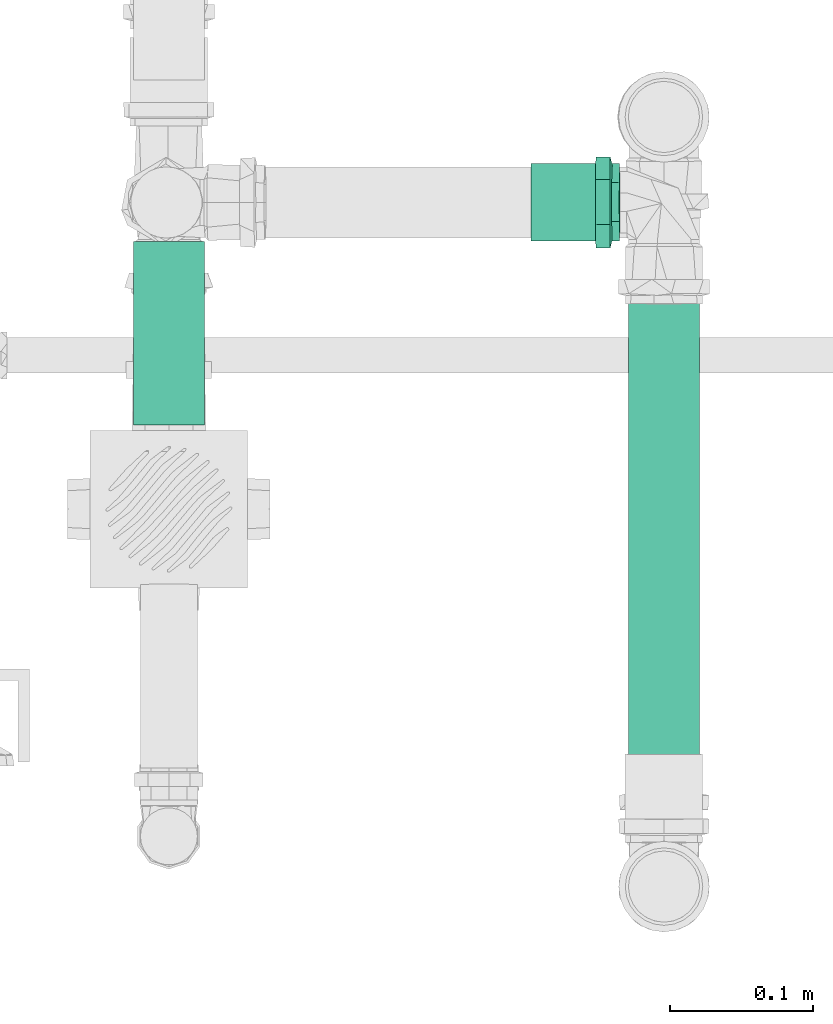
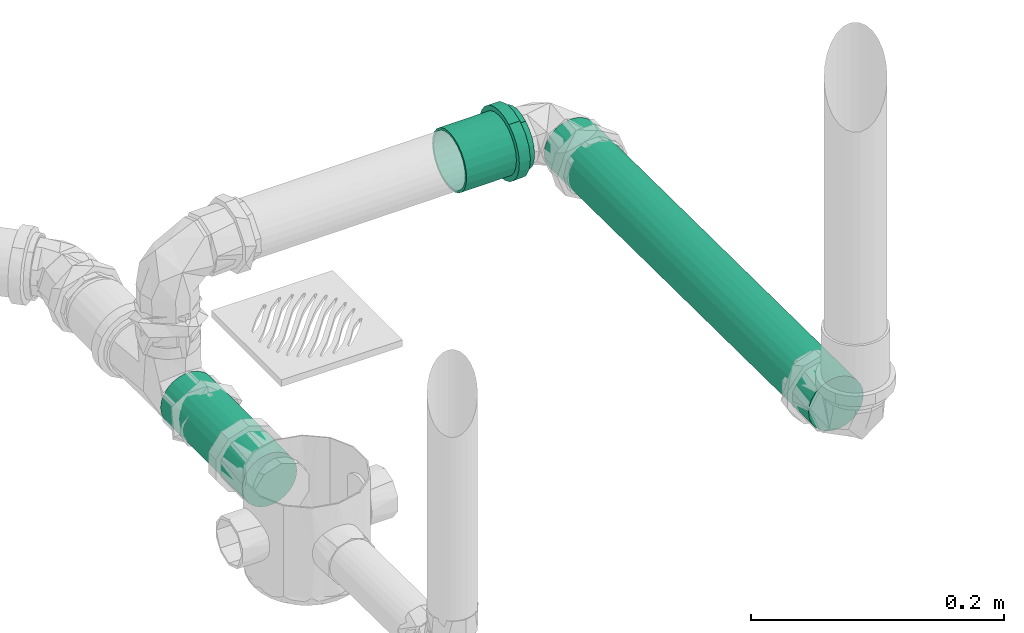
# One storey, part 225 of 589: 2 flow segments, 1 flow fitting.
"""IFC2X3 building model written with IfcOpenShell, lengths in millimetres."""

from ifc_helpers import new_model, entity, si_unit, converted_unit, derived_unit, direction, frame, frame_2d, origin, place, context, subcontext, project, spatial, circle, extrude, faceted_brep, source, transform, mapped, material, type_object, type_shapes, element, save


model = new_model("IFC2X3")

# Units and contexts
model_context = context("Model", 3, precision=0.01, world=origin(), true_north=direction((6.123031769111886e-17, 1.0)))
body_context = subcontext(model_context, "Body", "Model", "MODEL_VIEW")
ifc_project = project(units=[si_unit("LENGTHUNIT", "METRE", prefix="MILLI"), si_unit("AREAUNIT", "SQUARE_METRE"), si_unit("VOLUMEUNIT", "CUBIC_METRE"), converted_unit("PLANEANGLEUNIT", "DEGREE", entity("IfcRatioMeasure", 0.017453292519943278), si_unit("PLANEANGLEUNIT", "RADIAN"), dimensions=[0, 0, 0, 0, 0, 0, 0]), si_unit("MASSUNIT", "GRAM", prefix="KILO"), derived_unit("MASSDENSITYUNIT", [(si_unit("MASSUNIT", "GRAM", prefix="KILO"), 1), (si_unit("LENGTHUNIT", "METRE"), -3)]), derived_unit("IONCONCENTRATIONUNIT", [(si_unit("MASSUNIT", "GRAM", prefix="KILO"), 1), (si_unit("LENGTHUNIT", "METRE"), -3)]), derived_unit("MOMENTOFINERTIAUNIT", [(si_unit("LENGTHUNIT", "METRE"), 4)]), si_unit("TIMEUNIT", "SECOND"), si_unit("FREQUENCYUNIT", "HERTZ"), si_unit("THERMODYNAMICTEMPERATUREUNIT", "DEGREE_CELSIUS"), derived_unit("THERMALTRANSMITTANCEUNIT", [(si_unit("MASSUNIT", "GRAM", prefix="KILO"), 1), (si_unit("THERMODYNAMICTEMPERATUREUNIT", "KELVIN"), -1), (si_unit("TIMEUNIT", "SECOND"), -3)]), derived_unit("THERMALCONDUCTANCEUNIT", [(si_unit("MASSUNIT", "GRAM", prefix="KILO"), 1), (si_unit("THERMODYNAMICTEMPERATUREUNIT", "KELVIN"), -1), (si_unit("TIMEUNIT", "SECOND"), -3), (si_unit("LENGTHUNIT", "METRE"), 1)]), derived_unit("VOLUMETRICFLOWRATEUNIT", [(si_unit("LENGTHUNIT", "METRE"), 3), (si_unit("TIMEUNIT", "SECOND"), -1)]), derived_unit("MASSFLOWRATEUNIT", [(si_unit("MASSUNIT", "GRAM", prefix="KILO"), 1), (si_unit("TIMEUNIT", "SECOND"), -1)]), derived_unit("ROTATIONALFREQUENCYUNIT", [(si_unit("TIMEUNIT", "SECOND"), -1)]), si_unit("ELECTRICCURRENTUNIT", "AMPERE"), si_unit("ELECTRICVOLTAGEUNIT", "VOLT"), si_unit("POWERUNIT", "WATT"), si_unit("FORCEUNIT", "NEWTON", prefix="KILO"), si_unit("ILLUMINANCEUNIT", "LUX"), si_unit("LUMINOUSFLUXUNIT", "LUMEN"), si_unit("LUMINOUSINTENSITYUNIT", "CANDELA"), derived_unit("USERDEFINED", [(si_unit("MASSUNIT", "GRAM", prefix="KILO"), -1), (si_unit("LENGTHUNIT", "METRE"), -2), (si_unit("TIMEUNIT", "SECOND"), 3), (si_unit("LUMINOUSFLUXUNIT", "LUMEN"), 1)]), derived_unit("USERDEFINED", [(si_unit("MASSUNIT", "GRAM", prefix="KILO"), 1), (si_unit("TIMEUNIT", "SECOND"), -3), (si_unit("LENGTHUNIT", "METRE"), 3), (si_unit("ELECTRICCURRENTUNIT", "AMPERE"), -2)]), derived_unit("SOUNDPOWERUNIT", [(si_unit("MASSUNIT", "GRAM", prefix="KILO"), 1), (si_unit("TIMEUNIT", "SECOND"), -3), (si_unit("LENGTHUNIT", "METRE"), 2)]), derived_unit("SOUNDPRESSUREUNIT", [(si_unit("MASSUNIT", "GRAM", prefix="KILO"), 1), (si_unit("LENGTHUNIT", "METRE"), -1), (si_unit("TIMEUNIT", "SECOND"), -2)]), derived_unit("LINEARVELOCITYUNIT", [(si_unit("LENGTHUNIT", "METRE"), 1), (si_unit("TIMEUNIT", "SECOND"), -1)]), si_unit("PRESSUREUNIT", "PASCAL"), derived_unit("USERDEFINED", [(si_unit("MASSUNIT", "GRAM", prefix="KILO"), 1), (si_unit("LENGTHUNIT", "METRE"), -2), (si_unit("TIMEUNIT", "SECOND"), -2)]), derived_unit("LINEARFORCEUNIT", [(si_unit("MASSUNIT", "GRAM", prefix="KILO"), 1), (si_unit("TIMEUNIT", "SECOND"), -2)]), derived_unit("PLANARFORCEUNIT", [(si_unit("MASSUNIT", "GRAM", prefix="KILO"), 1), (si_unit("LENGTHUNIT", "METRE"), -1), (si_unit("TIMEUNIT", "SECOND"), -2)]), derived_unit("SPECIFICHEATCAPACITYUNIT", [(si_unit("THERMODYNAMICTEMPERATUREUNIT", "KELVIN"), -1), (si_unit("LENGTHUNIT", "METRE"), 2), (si_unit("TIMEUNIT", "SECOND"), -2)]), derived_unit("HEATINGVALUEUNIT", [(si_unit("LENGTHUNIT", "METRE"), 2), (si_unit("TIMEUNIT", "SECOND"), -2)]), derived_unit("VAPORPERMEABILITYUNIT", [(si_unit("LENGTHUNIT", "METRE"), -1), (si_unit("TIMEUNIT", "SECOND"), 1)]), derived_unit("DYNAMICVISCOSITYUNIT", [(si_unit("MASSUNIT", "GRAM", prefix="KILO"), 1), (si_unit("TIMEUNIT", "SECOND"), -1), (si_unit("LENGTHUNIT", "METRE"), -1)]), derived_unit("THERMALEXPANSIONCOEFFICIENTUNIT", [(si_unit("THERMODYNAMICTEMPERATUREUNIT", "KELVIN"), -1)]), derived_unit("MODULUSOFELASTICITYUNIT", [(si_unit("MASSUNIT", "GRAM", prefix="KILO"), 1), (si_unit("LENGTHUNIT", "METRE"), -1), (si_unit("TIMEUNIT", "SECOND"), -2)]), derived_unit("ISOTHERMALMOISTURECAPACITYUNIT", [(si_unit("LENGTHUNIT", "METRE"), 3), (si_unit("MASSUNIT", "GRAM", prefix="KILO"), -1)]), derived_unit("MOISTUREDIFFUSIVITYUNIT", [(si_unit("TIMEUNIT", "SECOND"), -1), (si_unit("LENGTHUNIT", "METRE"), 2)])], contexts=[model_context])

# Site, building, storey
site_placement = place(None, origin())
site = spatial("IfcSite", under=ifc_project, at=site_placement, Name="Default", CompositionType="ELEMENT")
building_placement = place(site_placement, origin())
building = spatial("IfcBuilding", under=site, at=building_placement, CompositionType="ELEMENT")
storey_placement = place(building_placement, frame((0.0, 0.0, 100.0)))
storey = spatial("IfcBuildingStorey", under=building, at=storey_placement, Name="TÉRREO", CompositionType="ELEMENT", Elevation=100.0)

# Flow segments
pipe_segment_type = type_object("IfcPipeSegmentType", Name="Tipos de tubos:PVC Esgoto Série Normal", PredefinedType="NOTDEFINED")
flow_segment_1_placement = place(storey_placement, origin())
element("IfcFlowSegment", 1, at=flow_segment_1_placement, inside=storey, type_object=pipe_segment_type, Name="Tipos de tubos:PVC Esgoto Série Normal", ObjectType="Tipos de tubos:PVC Esgoto Série Normal", context=body_context, shape_type="SweptSolid", body=[
    extrude(circle(Radius=25.0, at=frame_2d((0.0, -1.6919798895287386e-14), x_axis=(1.0, 0.0))), frame((13403.0548188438, -1809.7079482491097, -251.41394173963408), z_axis=(0.0, 1.0, 0.0), x_axis=(1.0, 0.0, 0.0)), (0.0, 0.0, 1.0), 128.74917657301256),
])
flow_segment_2_placement = place(storey_placement, origin())
element("IfcFlowSegment", 2, at=flow_segment_2_placement, inside=storey, type_object=pipe_segment_type, Name="Tipos de tubos:PVC Esgoto Série Normal", ObjectType="Tipos de tubos:PVC Esgoto Série Normal", context=body_context, shape_type="SweptSolid", body=[
    extrude(circle(Radius=25.0, at=frame_2d((0.0, -2.5378429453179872e-14), x_axis=(1.0, 0.0))), frame((13750.430163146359, -2102.619018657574, -122.09525023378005), z_axis=(0.0, 0.9999500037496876, -0.009999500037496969), x_axis=(-1.0, 0.0, 0.0)), (0.0, 0.0, 1.0), 417.8848332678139),
])

# Flow fitting
ifc_material = material(Name="PVC Série Normal")
pipe_fitting_type = type_object("IfcPipeFittingType", Name="PVC Esgoto_Luva Simples para Conexão_Rodrigo MEP:Standard", PredefinedType="NOTDEFINED", material=ifc_material)
shared_shape = source(origin(), body_context, "Body", "Brep", [
    faceted_brep([(16.599999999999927, 15.900000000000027, -27.53960784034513), (16.599999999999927, 22.485995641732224, -22.485995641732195), (16.599999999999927, 13.599999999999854, -23.555890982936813), (16.599999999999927, 7.039878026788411, -26.273182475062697), (16.599999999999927, 8.2304456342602, -30.71644127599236), (16.599999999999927, 19.233304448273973, -19.233304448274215), (16.599999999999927, 27.539607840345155, -15.899999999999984), (16.599999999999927, 23.55589098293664, -13.600000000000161), (16.599999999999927, 26.273182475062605, -7.03987802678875), (16.599999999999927, 30.716441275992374, -8.230445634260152), (16.599999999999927, 27.2, 0.0), (16.599999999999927, 31.8, 0.0), (16.599999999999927, 26.273182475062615, 7.0398780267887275), (16.599999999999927, 30.71644127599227, 8.23044563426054), (16.599999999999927, 23.555890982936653, 13.60000000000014), (16.599999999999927, 27.539607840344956, 15.900000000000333), (16.599999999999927, 19.233304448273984, 19.2333044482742), (16.599999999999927, 22.485995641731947, 22.48599564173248), (16.599999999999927, 13.599999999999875, 23.555890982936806), (16.599999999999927, 15.899999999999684, 27.53960784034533), (16.599999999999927, 7.039878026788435, 26.27318247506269), (16.599999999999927, 8.230445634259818, 30.716441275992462), (16.599999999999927, 0.0, 27.2), (16.599999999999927, 0.0, 31.8), (16.599999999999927, -7.039878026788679, 26.273182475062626), (16.599999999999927, -8.230445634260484, 30.716441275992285), (16.599999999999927, -13.600000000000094, 23.555890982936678), (16.599999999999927, -15.900000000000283, 27.53960784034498), (16.599999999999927, -19.23330444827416, 19.233304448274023), (16.599999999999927, -22.485995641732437, 22.48599564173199), (16.599999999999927, -23.55589098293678, 13.59999999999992), (16.599999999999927, -27.539607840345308, 15.899999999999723), (16.599999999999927, -30.71644127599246, 8.230445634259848), (16.599999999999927, -26.273182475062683, 7.039878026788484), (16.599999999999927, -31.8, 0.0), (16.599999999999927, -27.2, 0.0), (16.599999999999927, -30.71644127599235, -8.23044563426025), (16.599999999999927, -26.273182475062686, -7.03987802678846), (16.599999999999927, -27.53960784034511, -15.90000000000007), (16.599999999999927, -23.55589098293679, -13.599999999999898), (16.599999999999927, -22.485995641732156, -22.485995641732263), (16.599999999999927, -19.233304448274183, -19.233304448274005), (16.599999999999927, -15.899999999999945, -27.53960784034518), (16.599999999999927, -13.600000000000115, -23.555890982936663), (16.599999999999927, -8.230445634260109, -30.716441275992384), (16.599999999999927, -7.039878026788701, -26.273182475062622), (16.599999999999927, 0.0, -31.8), (16.599999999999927, 0.0, -27.2), (6.500000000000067, -10.708108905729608, 29.429219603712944), (6.500000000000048, -24.359073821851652, 20.44200387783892), (6.500000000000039, -27.120498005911, 15.6595386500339), (6.50000000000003, -29.881922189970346, 10.877073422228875), (6.500000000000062, -15.89769721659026, 27.540937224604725), (6.500000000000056, -20.128385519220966, 23.991470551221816), (6.50000000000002, -30.840961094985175, 5.438536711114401), (6.5000000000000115, -31.8, 0.0), (6.50000000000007, -5.518520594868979, 31.317501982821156), (6.500000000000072, 5.526376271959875, 31.316116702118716), (6.50000000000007, 0.00392783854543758, 31.316809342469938), (6.500000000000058, 20.134403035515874, 23.986420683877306), (6.500000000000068, 10.715490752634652, 29.42653259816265), (6.500000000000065, 15.904605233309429, 27.536948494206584), (6.500000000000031, 29.8846497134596, 10.869577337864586), (6.500000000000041, 27.12442527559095, 15.652735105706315), (6.5000000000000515, 24.364200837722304, 20.435892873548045), (6.5000000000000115, 31.8, 0.0), (6.499999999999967, 24.364200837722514, -20.435892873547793), (6.499999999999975, 27.12442527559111, -15.652735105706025), (6.499999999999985, 29.884649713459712, -10.869577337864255), (6.4999999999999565, 15.904605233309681, -27.53694849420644), (6.499999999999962, 20.134403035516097, -23.986420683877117), (6.499999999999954, 10.715490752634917, -29.42653259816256), (6.499999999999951, 5.526376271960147, -31.31611670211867), (6.499999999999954, -5.518520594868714, -31.317501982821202), (6.499999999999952, 0.003927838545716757, -31.316809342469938), (6.499999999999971, -20.128385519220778, -23.99147055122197), (6.499999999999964, -15.897697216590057, -27.54093722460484), (6.499999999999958, -10.70810890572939, -29.42921960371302), (6.499999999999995, -29.881922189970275, -10.877073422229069), (6.499999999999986, -27.12049800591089, -15.659538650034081), (6.499999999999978, -24.359073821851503, -20.442003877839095), (6.500000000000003, -30.840961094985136, -5.438536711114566), (6.499999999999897, -30.696173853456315, -6.259599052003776), (62.0, 13.600000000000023, -23.55589098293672), (62.0, 19.233304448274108, -19.23330444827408), (62.0, 12.499999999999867, -21.650635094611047), (62.0, 6.470476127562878, -24.14814565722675), (62.0, 7.039878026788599, -26.273182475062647), (62.0, 17.677669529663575, -17.677669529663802), (62.0, 23.55589098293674, -13.599999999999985), (62.0, 21.65063509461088, -12.50000000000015), (62.0, 24.148145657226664, -6.470476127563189), (62.0, 26.27318247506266, -7.039878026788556), (62.0, 25.0, 0.0), (62.0, 27.2, 0.0), (62.0, 24.148145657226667, 6.4704761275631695), (62.0, 26.273182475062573, 7.03987802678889), (62.0, 21.650635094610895, 12.500000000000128), (62.0, 23.555890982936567, 13.600000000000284), (62.0, 17.67766952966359, 17.67766952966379), (62.0, 19.233304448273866, 19.233304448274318), (62.0, 12.499999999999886, 21.650635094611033), (62.0, 13.59999999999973, 23.55589098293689), (62.0, 6.4704761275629, 24.14814565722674), (62.0, 7.039878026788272, 26.273182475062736), (62.0, 0.0, 25.0), (62.0, 0.0, 27.2), (62.0, -6.470476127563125, 24.148145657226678), (62.0, -7.039878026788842, 26.273182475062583), (62.0, -12.500000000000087, 21.650635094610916), (62.0, -13.600000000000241, 23.555890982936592), (62.0, -17.677669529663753, 17.677669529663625), (62.0, -19.233304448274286, 19.2333044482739), (62.0, -21.65063509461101, 12.499999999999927), (62.0, -23.555890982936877, 13.599999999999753), (62.0, -26.27318247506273, 7.039878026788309), (62.0, -24.14814565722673, 6.470476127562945), (62.0, -27.2, 0.0), (62.0, -25.0, 0.0), (62.0, -26.27318247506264, -7.0398780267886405), (62.0, -24.148145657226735, -6.470476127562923), (62.0, -23.5558909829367, -13.600000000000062), (62.0, -21.650635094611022, -12.499999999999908), (62.0, -19.233304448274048, -19.233304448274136), (62.0, -17.67766952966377, -17.677669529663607), (62.0, -13.599999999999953, -23.555890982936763), (62.0, -12.500000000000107, -21.650635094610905), (62.0, -7.039878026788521, -26.27318247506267), (62.0, -6.470476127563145, -24.148145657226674), (62.0, 0.0, -27.2), (62.0, 0.0, -25.0), (0.0, 12.499999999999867, -21.650635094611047), (0.0, 19.233304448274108, -19.23330444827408), (0.0, 13.600000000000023, -23.55589098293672), (0.0, 6.470476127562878, -24.14814565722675), (0.0, 17.677669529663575, -17.677669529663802), (0.0, 23.55589098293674, -13.599999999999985), (0.0, 21.65063509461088, -12.50000000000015), (0.0, 24.148145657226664, -6.470476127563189), (0.0, 26.27318247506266, -7.039878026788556), (0.0, 25.0, 0.0), (0.0, 27.2, 0.0), (0.0, 24.148145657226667, 6.4704761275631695), (0.0, 26.273182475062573, 7.03987802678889), (0.0, 21.650635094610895, 12.500000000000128), (0.0, 23.555890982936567, 13.600000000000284), (0.0, 17.67766952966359, 17.67766952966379), (0.0, 19.233304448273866, 19.233304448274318), (0.0, 12.499999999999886, 21.650635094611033), (0.0, 13.59999999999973, 23.55589098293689), (0.0, 6.4704761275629, 24.14814565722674), (0.0, 7.039878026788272, 26.273182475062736), (0.0, 0.0, 25.0), (0.0, 0.0, 27.2), (0.0, -6.470476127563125, 24.148145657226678), (0.0, -7.039878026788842, 26.273182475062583), (0.0, -12.500000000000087, 21.650635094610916), (0.0, -13.600000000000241, 23.555890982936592), (0.0, -17.677669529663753, 17.677669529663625), (0.0, -19.233304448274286, 19.2333044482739), (0.0, -21.65063509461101, 12.499999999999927), (0.0, -23.555890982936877, 13.599999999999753), (0.0, -26.27318247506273, 7.039878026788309), (0.0, -24.14814565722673, 6.470476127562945), (0.0, -27.2, 0.0), (0.0, -25.0, 0.0), (0.0, -26.27318247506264, -7.0398780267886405), (0.0, -24.148145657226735, -6.470476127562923), (0.0, -23.5558909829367, -13.600000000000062), (0.0, -21.650635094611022, -12.499999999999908), (0.0, -19.233304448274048, -19.233304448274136), (0.0, -17.67766952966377, -17.677669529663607), (0.0, -13.599999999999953, -23.555890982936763), (0.0, -12.500000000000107, -21.650635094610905), (0.0, -7.039878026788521, -26.27318247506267), (0.0, -6.470476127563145, -24.148145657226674), (0.0, 0.0, -27.2), (0.0, 0.0, -25.0), (0.0, 7.039878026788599, -26.273182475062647), (5.300000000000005, -26.37968999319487, 4.651830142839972), (5.299999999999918, -26.25584678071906, 5.354122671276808), (5.300000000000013, -25.559379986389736, 9.303660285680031), (5.300000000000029, -20.835434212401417, 17.48498444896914), (5.300000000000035, -17.216732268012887, 20.521006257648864), (5.300000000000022, -23.19740709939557, 13.394322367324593), (5.3000000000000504, -4.720244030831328, 26.787297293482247), (5.300000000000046, -9.15913717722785, 25.172162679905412), (5.299999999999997, -27.2, 0.0), (5.300000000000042, -13.598030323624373, 23.557028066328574), (5.300000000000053, 9.165451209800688, 25.169864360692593), (5.300000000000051, 13.603939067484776, 23.55361632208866), (5.300000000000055, 4.7269633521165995, 26.786112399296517), (5.300000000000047, 17.221879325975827, 20.516686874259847), (5.300000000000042, 20.839819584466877, 17.479757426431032), (5.3000000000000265, 25.56171296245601, 9.297248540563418), (5.299999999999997, 27.2, 0.0), (5.3000000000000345, 23.20076627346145, 13.388502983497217), (5.300000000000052, 0.003359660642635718, 26.786704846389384), (5.299999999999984, 25.56171296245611, -9.29724854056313), (5.299999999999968, 20.839819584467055, -17.47975742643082), (5.2999999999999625, 17.22187932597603, -20.516686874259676), (5.299999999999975, 23.200766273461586, -13.388502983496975), (5.299999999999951, 4.726963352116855, -26.78611239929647), (5.2999999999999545, 9.165451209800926, -25.169864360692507), (5.299999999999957, 13.603939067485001, -23.553616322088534), (5.29999999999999, -26.379689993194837, -4.651830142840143), (5.299999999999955, -9.159137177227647, -25.17216267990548), (5.299999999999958, -13.5980303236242, -23.55702806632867), (5.299999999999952, -4.720244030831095, -26.787297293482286), (5.299999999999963, -17.216732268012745, -20.52100625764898), (5.299999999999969, -20.83543421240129, -17.484984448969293), (5.299999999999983, -25.559379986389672, -9.303660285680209), (5.299999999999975, -23.197407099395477, -13.394322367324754), (5.299999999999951, 0.003359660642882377, -26.78670484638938), (39.0, -25.0, 0.0), (39.0, 25.0, 0.0)], [[[0, 1, 2]], [[0, 2, 3]], [[3, 4, 0]], [[2, 1, 5]], [[6, 5, 1]], [[7, 5, 6]], [[8, 7, 6]], [[8, 6, 9]], [[8, 9, 10]], [[10, 9, 11]], [[12, 10, 11]], [[12, 11, 13]], [[14, 12, 13]], [[14, 13, 15]], [[16, 14, 15]], [[15, 17, 16]], [[17, 18, 16]], [[17, 19, 18]], [[18, 19, 20]], [[21, 20, 19]], [[20, 21, 22]], [[22, 21, 23]], [[22, 23, 24]], [[24, 23, 25]], [[24, 25, 26]], [[27, 26, 25]], [[27, 28, 26]], [[28, 27, 29]], [[30, 28, 29]], [[31, 30, 29]], [[32, 30, 31]], [[33, 30, 32]], [[33, 32, 34]], [[35, 33, 34]], [[36, 35, 34]], [[36, 37, 35]], [[37, 36, 38]], [[39, 37, 38]], [[39, 38, 40]], [[39, 40, 41]], [[40, 42, 41]], [[41, 42, 43]], [[43, 42, 44]], [[44, 45, 43]], [[46, 45, 44]], [[4, 47, 46]], [[46, 47, 45]], [[4, 3, 47]], [[48, 27, 25]], [[31, 29, 49]], [[31, 49, 50, 51]], [[52, 53, 27]], [[32, 51, 54]], [[54, 55, 34]], [[54, 34, 32]], [[25, 56, 48]], [[49, 29, 53]], [[23, 57, 58, 56]], [[59, 19, 17]], [[27, 53, 29]], [[48, 52, 27]], [[31, 51, 32]], [[57, 23, 21]], [[60, 19, 61]], [[15, 62, 63, 64]], [[19, 60, 21]], [[15, 13, 62]], [[17, 64, 59]], [[57, 21, 60]], [[23, 56, 25]], [[15, 64, 17]], [[13, 65, 62]], [[13, 11, 65]], [[59, 61, 19]], [[65, 11, 9]], [[6, 1, 66]], [[6, 66, 67, 68]], [[69, 70, 0]], [[68, 65, 9]], [[71, 69, 0]], [[71, 0, 4]], [[4, 72, 71]], [[66, 1, 70]], [[46, 73, 74, 72]], [[75, 76, 42]], [[0, 70, 1]], [[75, 42, 40]], [[6, 68, 9]], [[73, 46, 44]], [[77, 42, 76]], [[38, 78, 79, 80]], [[42, 77, 44]], [[38, 36, 78]], [[40, 80, 75]], [[73, 44, 77]], [[46, 72, 4]], [[38, 80, 40]], [[36, 81, 82, 78]], [[55, 81, 34]], [[34, 81, 36]], [[83, 84, 85]], [[83, 85, 86]], [[86, 87, 83]], [[85, 84, 88]], [[89, 88, 84]], [[88, 89, 90]], [[90, 89, 91]], [[92, 91, 89]], [[92, 93, 91]], [[93, 92, 94]], [[95, 93, 94]], [[94, 96, 95]], [[95, 96, 97]], [[98, 97, 96]], [[97, 98, 99]], [[99, 98, 100]], [[101, 99, 100]], [[100, 102, 101]], [[101, 102, 103]], [[104, 103, 102]], [[103, 104, 105]], [[105, 104, 106]], [[105, 106, 107]], [[107, 106, 108]], [[107, 108, 109]], [[110, 109, 108]], [[110, 111, 109]], [[111, 110, 112]], [[112, 113, 111]], [[114, 113, 112]], [[113, 114, 115]], [[115, 116, 113]], [[117, 116, 115]], [[117, 118, 116]], [[119, 118, 117]], [[119, 120, 118]], [[120, 119, 121]], [[121, 122, 120]], [[122, 121, 123]], [[122, 123, 124]], [[123, 125, 124]], [[124, 125, 126]], [[126, 125, 127]], [[127, 128, 126]], [[129, 128, 127]], [[87, 130, 129]], [[129, 130, 128]], [[87, 86, 130]], [[131, 132, 133]], [[134, 131, 133]], [[135, 132, 131]], [[132, 135, 136]], [[137, 136, 135]], [[138, 136, 137]], [[136, 138, 139]], [[138, 140, 139]], [[141, 139, 140]], [[141, 140, 142]], [[142, 143, 141]], [[144, 143, 142]], [[143, 144, 145]], [[146, 145, 144]], [[147, 145, 146]], [[147, 146, 148]], [[148, 149, 147]], [[150, 149, 148]], [[149, 150, 151]], [[152, 151, 150]], [[153, 151, 152]], [[154, 153, 152]], [[155, 153, 154]], [[156, 155, 154]], [[155, 156, 157]], [[156, 158, 157]], [[159, 157, 158]], [[158, 160, 159]], [[159, 160, 161]], [[162, 161, 160]], [[160, 163, 162]], [[162, 163, 164]], [[163, 165, 164]], [[164, 165, 166]], [[165, 167, 166]], [[168, 166, 167]], [[167, 169, 168]], [[170, 168, 169]], [[171, 170, 169]], [[171, 172, 170]], [[173, 172, 171]], [[174, 172, 173]], [[173, 175, 174]], [[174, 175, 176]], [[175, 177, 176]], [[177, 134, 178]], [[176, 177, 178]], [[133, 178, 134]], [[162, 179, 180, 181]], [[159, 182, 183]], [[182, 161, 181, 184]], [[185, 155, 186]], [[161, 162, 181]], [[187, 179, 164]], [[183, 188, 157]], [[183, 157, 159]], [[161, 182, 159]], [[189, 190, 149]], [[189, 149, 151]], [[157, 188, 186]], [[157, 186, 155]], [[153, 155, 185]], [[164, 179, 162]], [[151, 191, 189]], [[147, 192, 193]], [[143, 194, 195]], [[194, 145, 193, 196]], [[143, 195, 141]], [[10, 12, 96, 94]], [[149, 192, 147]], [[153, 185, 197, 191]], [[153, 191, 151]], [[145, 147, 193]], [[190, 192, 149]], [[145, 194, 143]], [[139, 195, 198]], [[132, 199, 200]], [[199, 136, 198, 201]], [[202, 178, 203]], [[136, 139, 198]], [[139, 141, 195]], [[92, 8, 10, 94]], [[133, 203, 178]], [[200, 204, 133]], [[136, 199, 132]], [[205, 164, 166]], [[206, 207, 172]], [[133, 204, 203]], [[206, 172, 174]], [[176, 178, 202]], [[200, 133, 132]], [[174, 208, 206]], [[170, 209, 210]], [[166, 211, 205]], [[211, 168, 210, 212]], [[168, 211, 166]], [[172, 209, 170]], [[176, 202, 213, 208]], [[176, 208, 174]], [[168, 170, 210]], [[207, 209, 172]], [[205, 187, 164]], [[116, 118, 214, 165, 163]], [[156, 109, 111, 158]], [[111, 113, 160, 158]], [[113, 116, 163, 160]], [[107, 109, 156, 154]], [[154, 152, 105, 107]], [[103, 105, 152, 150]], [[103, 150, 148, 101]], [[142, 95, 97, 144]], [[97, 99, 146, 144]], [[99, 101, 148, 146]], [[93, 95, 142, 140, 215]], [[215, 140, 138, 91, 93]], [[135, 131, 85, 88]], [[90, 91, 138, 137]], [[90, 137, 135, 88]], [[86, 85, 131, 134]], [[134, 177, 130, 86]], [[128, 130, 177, 175]], [[128, 175, 173, 126]], [[167, 120, 122, 169]], [[122, 124, 171, 169]], [[124, 126, 173, 171]], [[118, 120, 167, 165, 214]], [[211, 78, 82, 81, 55, 187, 205]], [[79, 78, 211, 212, 210, 80]], [[75, 80, 210, 209, 207, 76]], [[207, 206, 208, 73, 77, 76]], [[213, 202, 72, 74, 73, 208]], [[203, 204, 69, 71, 72, 202]], [[198, 195, 65, 68]], [[199, 201, 198, 68, 67, 66]], [[204, 200, 199, 66, 70, 69]], [[195, 194, 62, 65]], [[197, 185, 56, 58, 57, 191]], [[63, 62, 194, 196, 193, 64]], [[57, 60, 61, 190, 189, 191]], [[193, 192, 190, 61, 59, 64]], [[48, 56, 185, 186, 188, 52]], [[187, 55, 54, 51, 181, 180, 179]], [[182, 184, 181, 51, 50, 49]], [[188, 183, 182, 49, 53, 52]], [[30, 33, 115, 114]], [[117, 115, 33, 35]], [[26, 28, 112, 110]], [[114, 112, 28, 30]], [[24, 26, 110, 108]], [[108, 106, 22, 24]], [[18, 20, 104, 102]], [[100, 16, 18, 102]], [[12, 14, 98, 96]], [[100, 98, 14, 16]], [[104, 20, 22, 106]], [[89, 7, 8, 92]], [[83, 87, 3, 2]], [[7, 89, 84, 5]], [[83, 2, 5, 84]], [[87, 129, 47, 3]], [[43, 45, 127, 125]], [[123, 41, 43, 125]], [[37, 39, 121, 119]], [[123, 121, 39, 41]], [[35, 37, 119, 117]], [[127, 45, 47, 129]]]),
])
type_shapes(pipe_fitting_type, [shared_shape])
flow_fitting_placement = place(storey_placement, frame((13719.233347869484, -1653.5587716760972, -126.8419187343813), z_axis=(-0.008207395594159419, 0.009999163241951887, 0.9999163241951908), x_axis=(-0.9999663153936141, 0.0, -0.008207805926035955)))
element("IfcFlowFitting", 3, at=flow_fitting_placement, inside=storey, type_object=pipe_fitting_type, material=ifc_material, Name="PVC Esgoto_Luva Simples para Conexão_Rodrigo MEP:Standard", ObjectType="PVC Esgoto_Luva Simples para Conexão_Rodrigo MEP:Standard", context=body_context, shape_type="MappedRepresentation", body=[
    mapped(shared_shape, transform((0.0, 0.0, 0.0), scale=1.0)),
])

save(model, "model.ifc")
